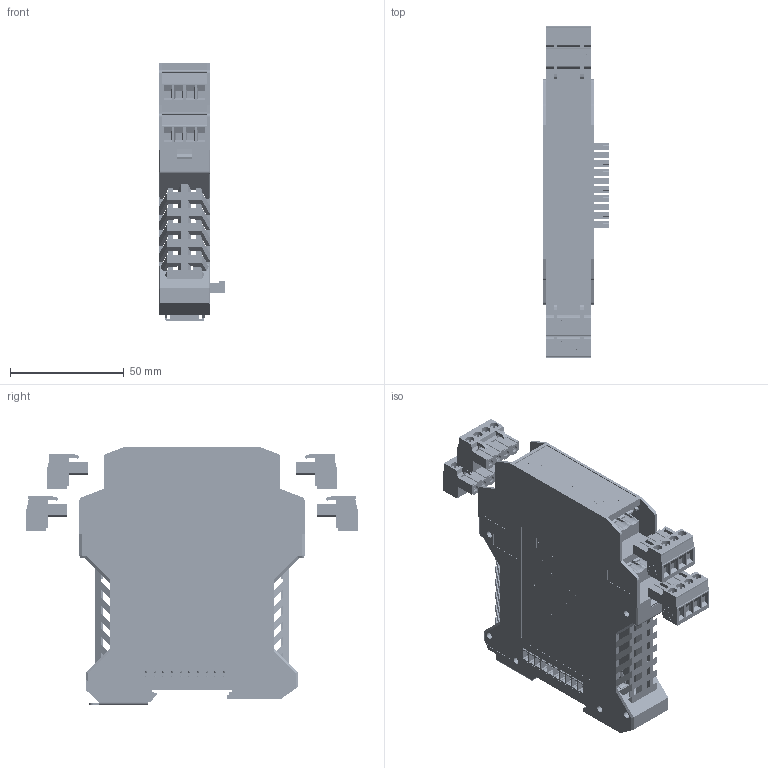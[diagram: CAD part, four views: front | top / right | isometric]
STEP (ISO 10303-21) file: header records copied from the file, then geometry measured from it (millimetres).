
FILE_DESCRIPTION(('STEP AP203'), '1');
FILE_NAME('鍛鍧 BOD-7_', '', ('UNSPECIFIED'), ('UNSPECIFIED'), 'ASCON STEP Converter 1.3', 'ASCON Math Kernel', '');
FILE_SCHEMA(('CONFIG_CONTROL_DESIGN'));
Length unit declared in the file: millimetre
Products named in the file (17): ME_22.5_UTR_H_BUS_10_H.Select__00496319; ME_Verriegelungshaken_H.Select__00446697; ME_22.5_UTL_H_BUS_10_H.Select__00496310; ME_BUS_22.5_MC_10-ST_H.Select__00493208; ME_BUS_FE-CONTACT_H.Select__00437355; Fussriegel_17.5_L30_H.Select__00315466; ME_22_5_OT-MSTBO_H.Select__00273265; MSTBO_2_5_4-G1L_H.Select__00364411; MSTBO_2_5_4-G1R_H.Select__00364505; MSTBT_2.5-4-ST
Assembly tree (22 placements, depth 5):
  (unnamed)
    (unnamed)
      (unnamed)
        (unnamed)
          ME_22.5_UTR_H_BUS_10_H.Select__00496319
          ME_Verriegelungshaken_H.Select__00446697  x2
          ME_22.5_UTL_H_BUS_10_H.Select__00496310
          ME_BUS_22.5_MC_10-ST_H.Select__00493208
          ME_BUS_FE-CONTACT_H.Select__00437355
          Fussriegel_17.5_L30_H.Select__00315466
      (unnamed)
        (unnamed)
          ME_22_5_OT-MSTBO_H.Select__00273265
          MSTBO_2_5_4-G1L_H.Select__00364411  x2
          MSTBO_2_5_4-G1R_H.Select__00364505  x2
    MSTBT_2.5-4-ST  x4
      MSTBT_2.5-4-ST
Bounding box: 29.1 x 145.9 x 113.6 mm (x, y, z)
Volume: 76886.3 mm3; surface area: 99699.7 mm2
Topology: 19 solids, 21 shells, 18113 faces, 51022 edges, 33857 vertices
Faces by surface type: plane 10072, cylinder 7659, extrusion 352, cone 30
Full cylindrical faces by diameter (mm): 0.813 x3, 0.853 x3, 1.353 x16, 1.4 x32, 1.6 x20, 2 x6, 2.1 x3, 2.8 x32, 3 x12, 3.783 x16, 4 x16
Entity records: 630816 total; most frequent: CARTESIAN_POINT 92673, DIRECTION 88203, ORIENTED_EDGE 87220, EDGE_CURVE 43610, AXIS2_PLACEMENT_3D 29762, VERTEX_POINT 29035, VECTOR 28679, LINE 28438
